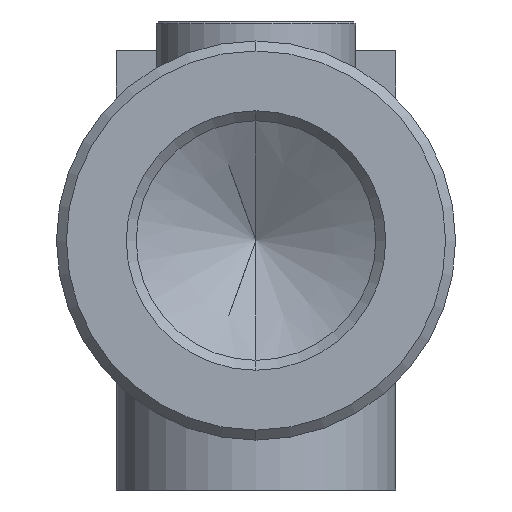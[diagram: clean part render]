
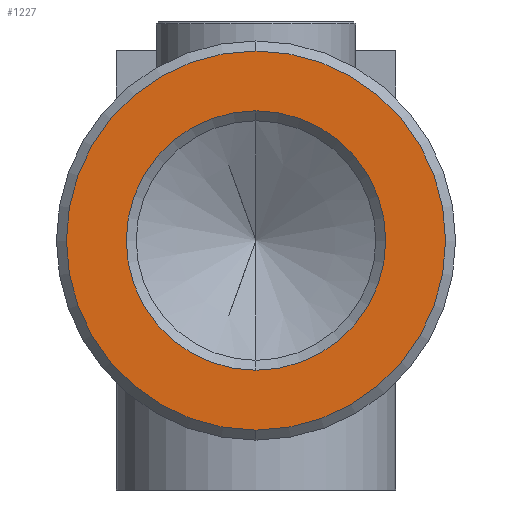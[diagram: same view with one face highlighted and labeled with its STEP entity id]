
A CAD part, front view. The second image highlights one B-rep face of the part: STEP entity #1227.
In plain terms, the highlighted planar face has unit normal (0, -1, 0) as drawn and (-0.242, -0.97, 0) by its records, which use the part's own axes.
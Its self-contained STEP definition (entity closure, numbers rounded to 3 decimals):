
#114 = DIRECTION ( 'NONE',  ( -0.242, -0.97, 0. ) ) ;
#292 = CIRCLE ( 'NONE', #915, 6.5 ) ;
#400 = EDGE_LOOP ( 'NONE', ( #6726, #2140 ) ) ;
#420 = VERTEX_POINT ( 'NONE', #4534 ) ;
#440 = EDGE_LOOP ( 'NONE', ( #2674, #7568 ) ) ;
#863 = CIRCLE ( 'NONE', #3312, 9.5 ) ;
#915 = AXIS2_PLACEMENT_3D ( 'NONE', #4445, #1032, #2792 ) ;
#1032 = DIRECTION ( 'NONE',  ( 0.242, 0.97, 0. ) ) ;
#1227 = ADVANCED_FACE ( 'NONE', ( #2417, #7557 ), #5839, .T. ) ;
#1360 = DIRECTION ( 'NONE',  ( 0., 0., 1. ) ) ;
#1436 = EDGE_CURVE ( 'NONE', #6540, #4206, #6554, .T. ) ;
#1438 = CARTESIAN_POINT ( 'NONE',  ( -39.497, -63.034, 25.471 ) ) ;
#1475 = EDGE_CURVE ( 'NONE', #4206, #6540, #292, .T. ) ;
#1562 = CARTESIAN_POINT ( 'NONE',  ( -39.497, -63.034, 34.971 ) ) ;
#1693 = DIRECTION ( 'NONE',  ( 0., 0., -1. ) ) ;
#1838 = CARTESIAN_POINT ( 'NONE',  ( -39.497, -63.034, 34.971 ) ) ;
#2140 = ORIENTED_EDGE ( 'NONE', *, *, #1475, .T. ) ;
#2411 = DIRECTION ( 'NONE',  ( 0., 0., 1. ) ) ;
#2417 = FACE_BOUND ( 'NONE', #400, .T. ) ;
#2493 = VERTEX_POINT ( 'NONE', #1438 ) ;
#2516 = AXIS2_PLACEMENT_3D ( 'NONE', #3606, #114, #1693 ) ;
#2674 = ORIENTED_EDGE ( 'NONE', *, *, #4219, .T. ) ;
#2792 = DIRECTION ( 'NONE',  ( 0., 0., -1. ) ) ;
#2842 = CIRCLE ( 'NONE', #7125, 9.5 ) ;
#3312 = AXIS2_PLACEMENT_3D ( 'NONE', #1838, #6365, #2411 ) ;
#3420 = CARTESIAN_POINT ( 'NONE',  ( -39.497, -63.034, 28.471 ) ) ;
#3606 = CARTESIAN_POINT ( 'NONE',  ( -48.825, -60.708, 44.585 ) ) ;
#3945 = DIRECTION ( 'NONE',  ( 0., 0., -1. ) ) ;
#4206 = VERTEX_POINT ( 'NONE', #6583 ) ;
#4219 = EDGE_CURVE ( 'NONE', #420, #2493, #2842, .T. ) ;
#4445 = CARTESIAN_POINT ( 'NONE',  ( -39.497, -63.034, 34.971 ) ) ;
#4534 = CARTESIAN_POINT ( 'NONE',  ( -39.497, -63.034, 44.471 ) ) ;
#5225 = EDGE_CURVE ( 'NONE', #2493, #420, #863, .T. ) ;
#5559 = AXIS2_PLACEMENT_3D ( 'NONE', #1562, #6207, #3945 ) ;
#5839 = PLANE ( 'NONE',  #2516 ) ;
#5924 = CARTESIAN_POINT ( 'NONE',  ( -39.497, -63.034, 34.971 ) ) ;
#6207 = DIRECTION ( 'NONE',  ( 0.242, 0.97, 0. ) ) ;
#6365 = DIRECTION ( 'NONE',  ( -0.242, -0.97, 0. ) ) ;
#6540 = VERTEX_POINT ( 'NONE', #3420 ) ;
#6554 = CIRCLE ( 'NONE', #5559, 6.5 ) ;
#6583 = CARTESIAN_POINT ( 'NONE',  ( -39.497, -63.034, 41.471 ) ) ;
#6615 = DIRECTION ( 'NONE',  ( -0.242, -0.97, 0. ) ) ;
#6726 = ORIENTED_EDGE ( 'NONE', *, *, #1436, .T. ) ;
#7125 = AXIS2_PLACEMENT_3D ( 'NONE', #5924, #6615, #1360 ) ;
#7557 = FACE_OUTER_BOUND ( 'NONE', #440, .T. ) ;
#7568 = ORIENTED_EDGE ( 'NONE', *, *, #5225, .T. ) ;
